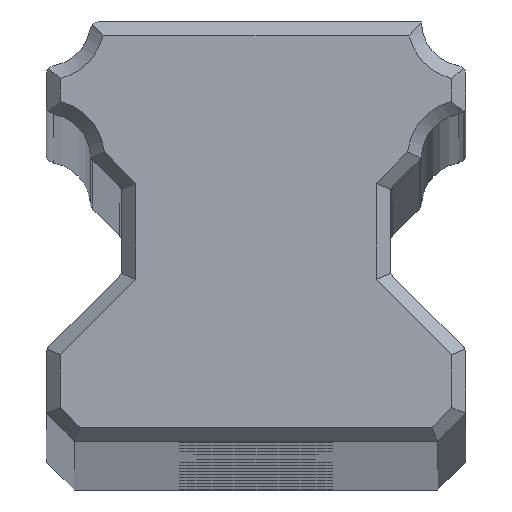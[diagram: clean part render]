
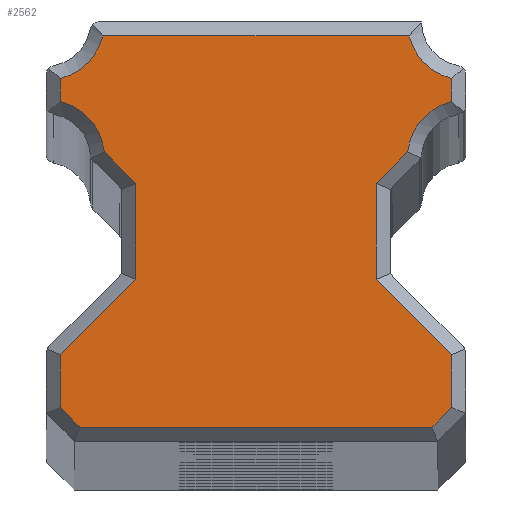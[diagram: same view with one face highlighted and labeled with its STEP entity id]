
A CAD part, top view. The second image highlights one B-rep face of the part: STEP entity #2562.
In plain terms, the highlighted planar face has unit normal (0, 0, 1).
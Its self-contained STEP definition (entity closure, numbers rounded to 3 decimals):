
#69=CIRCLE('',#2718,2.083);
#73=CIRCLE('',#2764,2.083);
#92=CIRCLE('',#2797,2.083);
#93=CIRCLE('',#2800,2.083);
#304=PLANE('',#2804);
#387=FACE_OUTER_BOUND('',#558,.T.);
#558=EDGE_LOOP('',(#2001,#2002,#2003,#2004,#2005,#2006,#2007,#2008,#2009,
#2010,#2011,#2012,#2013,#2014,#2015,#2016,#2017,#2018));
#711=LINE('',#3918,#886);
#720=LINE('',#3986,#895);
#729=LINE('',#4067,#904);
#756=LINE('',#4188,#931);
#763=LINE('',#4301,#938);
#765=LINE('',#4310,#940);
#770=LINE('',#4320,#945);
#774=LINE('',#4327,#949);
#776=LINE('',#4332,#951);
#778=LINE('',#4335,#953);
#780=LINE('',#4338,#955);
#782=LINE('',#4342,#957);
#784=LINE('',#4345,#959);
#785=LINE('',#4350,#960);
#886=VECTOR('',#3068,10.);
#895=VECTOR('',#3093,10.);
#904=VECTOR('',#3134,10.);
#931=VECTOR('',#3221,10.);
#938=VECTOR('',#3290,10.);
#940=VECTOR('',#3294,10.);
#945=VECTOR('',#3301,10.);
#949=VECTOR('',#3307,10.);
#951=VECTOR('',#3311,10.);
#953=VECTOR('',#3315,10.);
#955=VECTOR('',#3319,10.);
#957=VECTOR('',#3323,10.);
#959=VECTOR('',#3327,10.);
#960=VECTOR('',#3336,10.);
#1106=VERTEX_POINT('',#3915);
#1107=VERTEX_POINT('',#3917);
#1121=VERTEX_POINT('',#3980);
#1122=VERTEX_POINT('',#3985);
#1130=VERTEX_POINT('',#4034);
#1138=VERTEX_POINT('',#4066);
#1173=VERTEX_POINT('',#4182);
#1174=VERTEX_POINT('',#4187);
#1182=VERTEX_POINT('',#4238);
#1205=VERTEX_POINT('',#4300);
#1206=VERTEX_POINT('',#4307);
#1207=VERTEX_POINT('',#4309);
#1210=VERTEX_POINT('',#4317);
#1211=VERTEX_POINT('',#4319);
#1213=VERTEX_POINT('',#4325);
#1214=VERTEX_POINT('',#4329);
#1215=VERTEX_POINT('',#4331);
#1216=VERTEX_POINT('',#4341);
#1355=EDGE_CURVE('',#1106,#1107,#711,.T.);
#1374=EDGE_CURVE('',#1121,#1122,#720,.T.);
#1386=EDGE_CURVE('',#1122,#1130,#69,.T.);
#1398=EDGE_CURVE('',#1130,#1138,#729,.T.);
#1447=EDGE_CURVE('',#1173,#1174,#756,.T.);
#1459=EDGE_CURVE('',#1174,#1182,#73,.T.);
#1485=EDGE_CURVE('',#1182,#1205,#763,.T.);
#1488=EDGE_CURVE('',#1206,#1207,#765,.T.);
#1493=EDGE_CURVE('',#1210,#1211,#770,.T.);
#1497=EDGE_CURVE('',#1213,#1210,#774,.T.);
#1499=EDGE_CURVE('',#1214,#1215,#776,.T.);
#1501=EDGE_CURVE('',#1215,#1213,#778,.T.);
#1503=EDGE_CURVE('',#1138,#1214,#780,.T.);
#1505=EDGE_CURVE('',#1211,#1216,#782,.T.);
#1507=EDGE_CURVE('',#1216,#1206,#784,.T.);
#1509=EDGE_CURVE('',#1205,#1121,#92,.T.);
#1510=EDGE_CURVE('',#1207,#1106,#785,.T.);
#1511=EDGE_CURVE('',#1107,#1173,#93,.T.);
#2001=ORIENTED_EDGE('',*,*,#1499,.F.);
#2002=ORIENTED_EDGE('',*,*,#1503,.F.);
#2003=ORIENTED_EDGE('',*,*,#1398,.F.);
#2004=ORIENTED_EDGE('',*,*,#1386,.F.);
#2005=ORIENTED_EDGE('',*,*,#1374,.F.);
#2006=ORIENTED_EDGE('',*,*,#1509,.F.);
#2007=ORIENTED_EDGE('',*,*,#1485,.F.);
#2008=ORIENTED_EDGE('',*,*,#1459,.F.);
#2009=ORIENTED_EDGE('',*,*,#1447,.F.);
#2010=ORIENTED_EDGE('',*,*,#1511,.F.);
#2011=ORIENTED_EDGE('',*,*,#1355,.F.);
#2012=ORIENTED_EDGE('',*,*,#1510,.F.);
#2013=ORIENTED_EDGE('',*,*,#1488,.F.);
#2014=ORIENTED_EDGE('',*,*,#1507,.F.);
#2015=ORIENTED_EDGE('',*,*,#1505,.F.);
#2016=ORIENTED_EDGE('',*,*,#1493,.F.);
#2017=ORIENTED_EDGE('',*,*,#1497,.F.);
#2018=ORIENTED_EDGE('',*,*,#1501,.F.);
#2562=ADVANCED_FACE('',(#387),#304,.T.);
#2718=AXIS2_PLACEMENT_3D('',#4035,#3112,#3113);
#2764=AXIS2_PLACEMENT_3D('',#4239,#3240,#3241);
#2797=AXIS2_PLACEMENT_3D('',#4348,#3332,#3333);
#2800=AXIS2_PLACEMENT_3D('',#4352,#3339,#3340);
#2804=AXIS2_PLACEMENT_3D('',#4356,#3347,#3348);
#3068=DIRECTION('',(-0.707,0.707,0.));
#3093=DIRECTION('',(0.,-1.,0.));
#3112=DIRECTION('center_axis',(0.,0.,1.));
#3113=DIRECTION('ref_axis',(0.,1.,0.));
#3134=DIRECTION('',(-0.707,-0.707,0.));
#3221=DIRECTION('',(0.,1.,0.));
#3240=DIRECTION('center_axis',(0.,0.,1.));
#3241=DIRECTION('ref_axis',(1.,0.,0.));
#3290=DIRECTION('',(1.,0.,0.));
#3294=DIRECTION('',(0.707,0.707,0.));
#3301=DIRECTION('',(-1.,0.,0.));
#3307=DIRECTION('',(-0.707,-0.707,0.));
#3311=DIRECTION('',(0.707,-0.707,0.));
#3315=DIRECTION('',(0.,-1.,0.));
#3319=DIRECTION('',(0.,-1.,0.));
#3323=DIRECTION('',(-0.707,0.707,0.));
#3327=DIRECTION('',(0.,1.,0.));
#3332=DIRECTION('center_axis',(0.,0.,1.));
#3333=DIRECTION('ref_axis',(-1.,0.,0.));
#3336=DIRECTION('',(0.,1.,0.));
#3339=DIRECTION('center_axis',(0.,0.,1.));
#3340=DIRECTION('ref_axis',(0.,1.,0.));
#3347=DIRECTION('center_axis',(0.,0.,1.));
#3348=DIRECTION('ref_axis',(1.,0.,0.));
#3915=CARTESIAN_POINT('',(-4.3,9.225,0.));
#3917=CARTESIAN_POINT('',(-5.429,10.354,0.));
#3918=CARTESIAN_POINT('',(-2.488,7.413,0.));
#3980=CARTESIAN_POINT('',(7.,12.978,0.));
#3985=CARTESIAN_POINT('',(7.,12.157,0.));
#3986=CARTESIAN_POINT('',(7.,10.459,0.));
#4034=CARTESIAN_POINT('',(5.429,10.354,0.));
#4035=CARTESIAN_POINT('Origin',(7.5,10.135,0.));
#4066=CARTESIAN_POINT('',(4.3,9.225,0.));
#4067=CARTESIAN_POINT('',(4.363,9.288,0.));
#4182=CARTESIAN_POINT('',(-7.,12.157,0.));
#4187=CARTESIAN_POINT('',(-7.,12.978,0.));
#4188=CARTESIAN_POINT('',(-7.,10.459,0.));
#4238=CARTESIAN_POINT('',(-5.478,14.5,0.));
#4239=CARTESIAN_POINT('Origin',(-7.5,15.,0.));
#4300=CARTESIAN_POINT('',(5.478,14.5,0.));
#4301=CARTESIAN_POINT('',(1.875,14.5,0.));
#4307=CARTESIAN_POINT('',(-7.,3.093,0.));
#4309=CARTESIAN_POINT('',(-4.3,5.793,0.));
#4310=CARTESIAN_POINT('',(-1.934,8.159,0.));
#4317=CARTESIAN_POINT('',(6.293,0.5,0.));
#4319=CARTESIAN_POINT('',(-6.293,0.5,0.));
#4320=CARTESIAN_POINT('',(5.125,0.5,0.));
#4325=CARTESIAN_POINT('',(7.,1.207,0.));
#4327=CARTESIAN_POINT('',(7.834,2.041,0.));
#4329=CARTESIAN_POINT('',(4.3,5.793,0.));
#4331=CARTESIAN_POINT('',(7.,3.093,0.));
#4332=CARTESIAN_POINT('',(3.809,6.284,0.));
#4335=CARTESIAN_POINT('',(7.,5.4,0.));
#4338=CARTESIAN_POINT('',(4.3,8.259,0.));
#4341=CARTESIAN_POINT('',(-7.,1.207,0.));
#4342=CARTESIAN_POINT('',(-5.959,0.166,0.));
#4345=CARTESIAN_POINT('',(-7.,5.4,0.));
#4348=CARTESIAN_POINT('Origin',(7.5,15.,0.));
#4350=CARTESIAN_POINT('',(-4.3,8.259,0.));
#4352=CARTESIAN_POINT('Origin',(-7.5,10.135,0.));
#4356=CARTESIAN_POINT('Origin',(3.75,7.5,0.));
